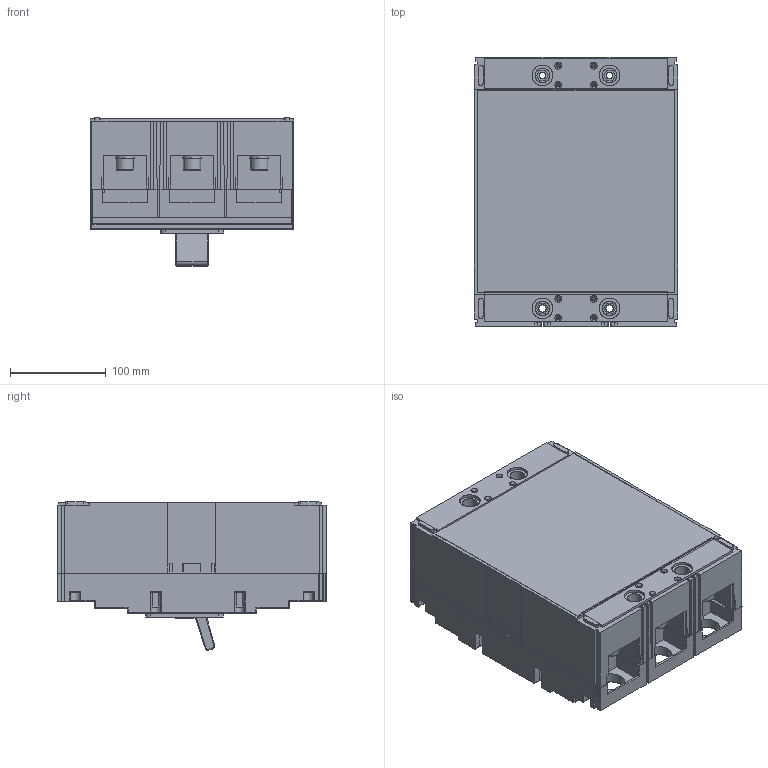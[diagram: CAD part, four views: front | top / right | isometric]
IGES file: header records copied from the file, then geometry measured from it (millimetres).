
Start section: SolidWorks IGES file using analytic representation for surfaces
Global section: file name: \\Brjgs100\dfsweg\GROUPS\BR_SC_JGS_WA_TECNICO\ENG\Usuarios\Rodrigob\conversão\Disjuntor de Caixa Moldada\Produto\DWP\DWP800\DWP800.IGS; native system: SolidWorks 2016; preprocessor: SolidWorks 2016; author: rodrigob; date: 180709.140630; units: millimetre
Bounding box: 212 x 281 x 155.2 mm (x, y, z)
Surface area: 782094 mm2 (no closed solid volume)
Topology: 0 solids, 0 shells, 1652 faces, 20663 edges, 20624 vertices
Faces by surface type: bspline 1114, revolution 538
